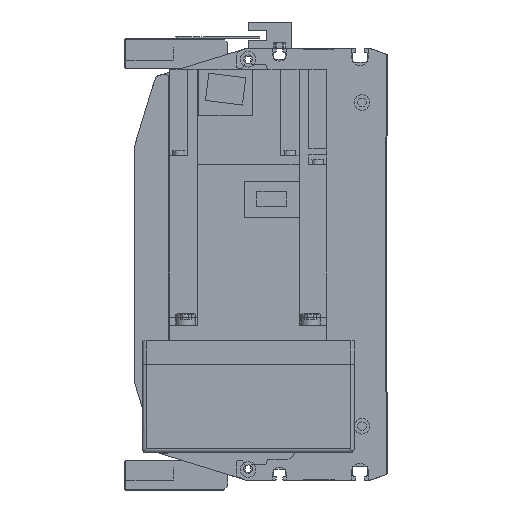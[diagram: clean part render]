
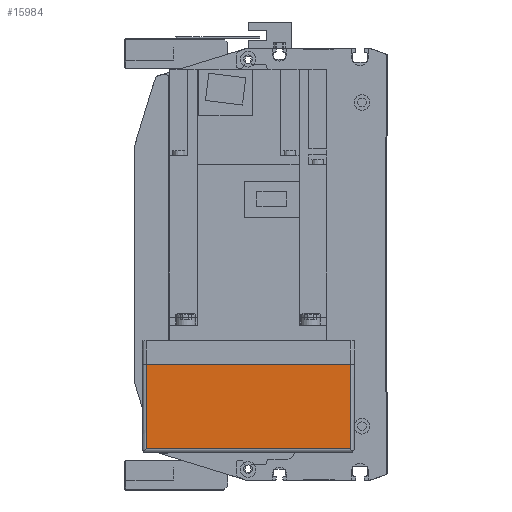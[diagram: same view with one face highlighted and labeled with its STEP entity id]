
A CAD part, left-side view. The second image highlights one B-rep face of the part: STEP entity #15984.
In plain terms, the highlighted planar face has unit normal (-1, 0, 0).
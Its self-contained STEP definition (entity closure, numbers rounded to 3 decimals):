
#2696=ORIENTED_EDGE('',*,*,#6488,.T.);
#2697=ORIENTED_EDGE('',*,*,#6416,.T.);
#2698=ORIENTED_EDGE('',*,*,#6489,.F.);
#2699=ORIENTED_EDGE('',*,*,#6428,.F.);
#6416=EDGE_CURVE('',#8458,#8461,#10116,.T.);
#6428=EDGE_CURVE('',#8468,#8470,#10121,.T.);
#6488=EDGE_CURVE('',#8468,#8458,#10163,.T.);
#6489=EDGE_CURVE('',#8470,#8461,#10164,.T.);
#8458=VERTEX_POINT('',#24907);
#8461=VERTEX_POINT('',#24913);
#8468=VERTEX_POINT('',#24936);
#8470=VERTEX_POINT('',#24939);
#10116=LINE('',#24914,#11481);
#10121=LINE('',#24938,#11486);
#10163=LINE('',#25062,#11528);
#10164=LINE('',#25063,#11529);
#11481=VECTOR('',#19855,1000.);
#11486=VECTOR('',#19882,1000.);
#11528=VECTOR('',#20002,1000.);
#11529=VECTOR('',#20003,1000.);
#12703=EDGE_LOOP('',(#2696,#2697,#2698,#2699));
#14092=FACE_BOUND('',#12703,.T.);
#15319=PLANE('',#17169);
#15984=ADVANCED_FACE('',(#14092),#15319,.T.);
#17169=AXIS2_PLACEMENT_3D('',#25061,#20000,#20001);
#19855=DIRECTION('',(0.,0.,1.));
#19882=DIRECTION('',(0.,0.,1.));
#20000=DIRECTION('',(-1.,0.,0.));
#20001=DIRECTION('',(0.,0.,1.));
#20002=DIRECTION('',(0.,-1.,0.));
#20003=DIRECTION('',(0.,-1.,0.));
#24907=CARTESIAN_POINT('',(-230.,-52.,-55.));
#24913=CARTESIAN_POINT('',(-230.,-52.,-12.));
#24914=CARTESIAN_POINT('',(-230.,-52.,-57.));
#24936=CARTESIAN_POINT('',(-230.,52.,-55.));
#24938=CARTESIAN_POINT('',(-230.,52.,-57.));
#24939=CARTESIAN_POINT('',(-230.,52.,-12.));
#25061=CARTESIAN_POINT('',(-230.,52.,-57.));
#25062=CARTESIAN_POINT('',(-230.,54.,-55.));
#25063=CARTESIAN_POINT('',(-230.,52.,-12.));
